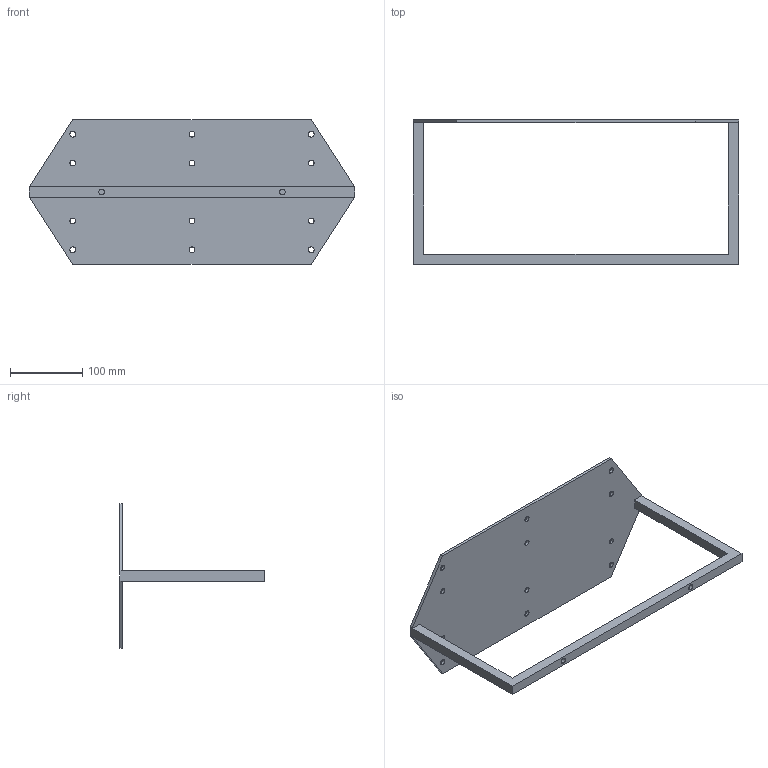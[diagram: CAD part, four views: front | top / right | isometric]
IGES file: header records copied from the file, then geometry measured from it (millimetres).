
Start section: SolidWorks IGES file using NURBS representation for surfaces
Global section: file name: G:\VICCARBE\PRODUCTOS\20-DO IT\04-MODELADOS (PLANOS)\SOLIDWORKS\Contenedores\IGES\VICCARBE_DOC20.IGS; native system: SolidWorks 2009; preprocessor: SolidWorks 2009; author: RUBEN; date: 111102.124130; units: millimetre
Bounding box: 450 x 200 x 200 mm (x, y, z)
Surface area: 207897.4 mm2 (no closed solid volume)
Topology: 0 solids, 0 shells, 46 faces, 1096 edges, 1096 vertices
Faces by surface type: bspline 46
